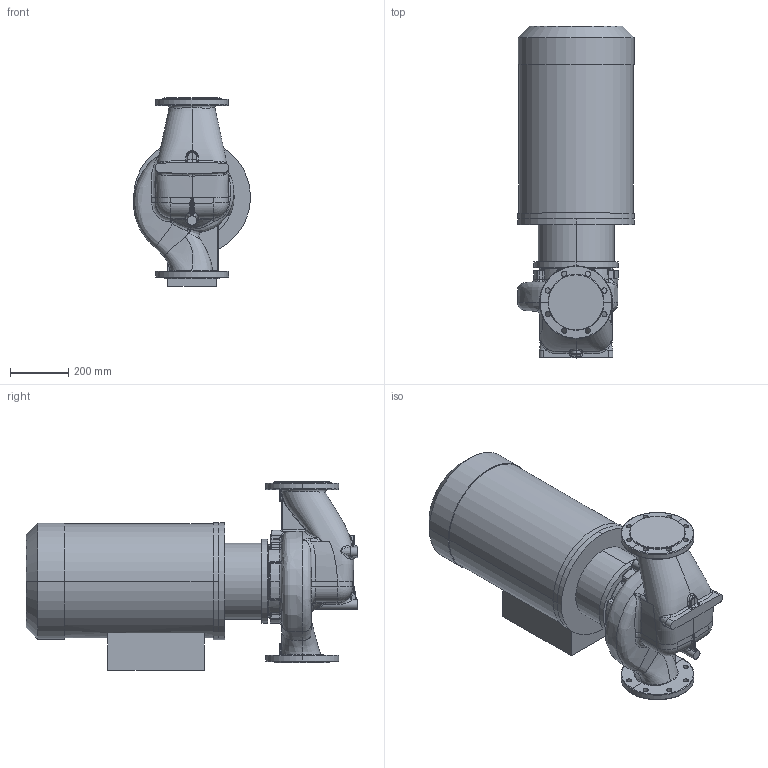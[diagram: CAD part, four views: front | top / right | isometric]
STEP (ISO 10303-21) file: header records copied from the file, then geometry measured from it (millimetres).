
FILE_DESCRIPTION (( 'STEP AP203' ), '1' );
FILE_NAME ('KRL 125-160-2-37.STEP', '2026-04-03T11:59:16', ( '' ), ( '' ), 'SwSTEP 2.0', 'SolidWorks 2016', '' );
FILE_SCHEMA (( 'CONFIG_CONTROL_DESIGN' ));
Length unit declared in the file: millimetre
Products named in the file (1): KRL 125-160-2-37
Bounding box: 400.27 x 1135.8 x 645 mm (x, y, z)
Volume: 123717904.9 mm3; surface area: 2495711.9 mm2
Topology: 4 solids, 4 shells, 621 faces, 1533 edges, 923 vertices
Faces by surface type: bspline 289, cylinder 158, plane 89, torus 41, cone 32, sphere 12
Entity records: 61531 total; most frequent: CARTESIAN_POINT 49341, ORIENTED_EDGE 3038, DIRECTION 1831, EDGE_CURVE 1519, VERTEX_POINT 923, AXIS2_PLACEMENT_3D 783, B_SPLINE_CURVE_WITH_KNOTS 717, EDGE_LOOP 670
